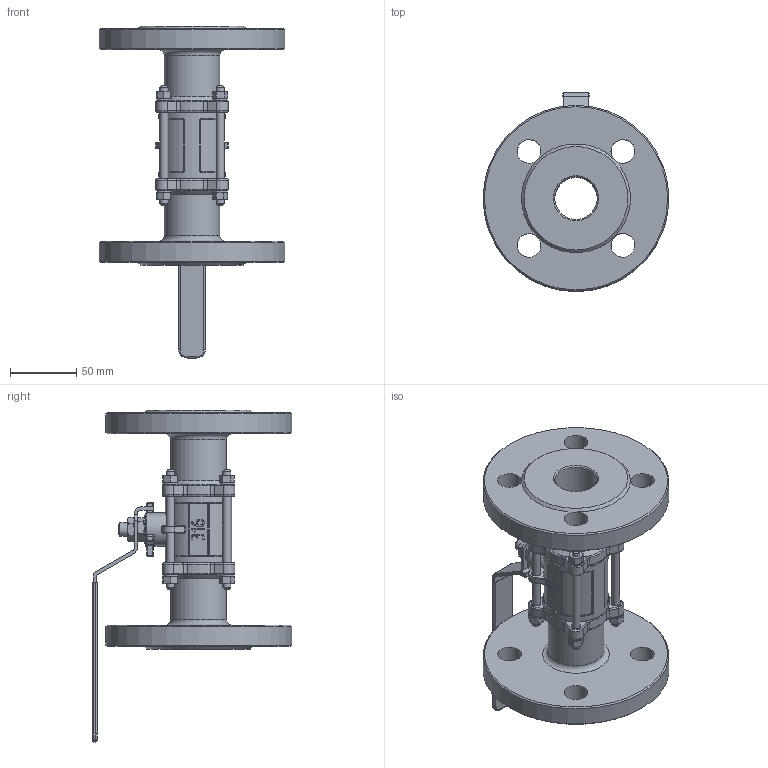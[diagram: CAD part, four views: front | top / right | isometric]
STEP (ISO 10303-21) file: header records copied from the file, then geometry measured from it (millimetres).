
FILE_DESCRIPTION(('STEP AP214'), '1');
FILE_NAME('BV3232P(3pc)-FP-F-H - Êðàí øàðîâîé DN.ru Äó32 Ðó40', '', ('UNSPECIFIED'), ('UNSPECIFIED'), 'C3D Converter', 'C3D Toolkit', '');
FILE_SCHEMA(('AUTOMOTIVE_DESIGN { 1 0 10303 214 3 1 1}'));
Length unit declared in the file: millimetre
Products named in the file (1): BV3232P(3pc)-FP-F-H
Bounding box: 140 x 150 x 250 mm (x, y, z)
Volume: 615877 mm3; surface area: 137853.9 mm2
Topology: 1 solids, 1 shells, 1556 faces, 3908 edges, 2439 vertices
Faces by surface type: plane 523, extrusion 451, cylinder 235, cone 139, torus 118, bspline 54, sphere 36
Full cylindrical faces by diameter (mm): 6 x12, 6.4 x8, 7 x10, 10 x1, 11 x8, 18 x8, 21 x1, 25 x1, 32 x1, 42 x2, 50 x1, 140 x2
Entity records: 62066 total; most frequent: CARTESIAN_POINT 23032, ORIENTED_EDGE 7650, DIRECTION 5915, EDGE_CURVE 3825, VERTEX_POINT 2437, VECTOR 2075, AXIS2_PLACEMENT_3D 1920, B_SPLINE_CURVE_WITH_KNOTS 1784
